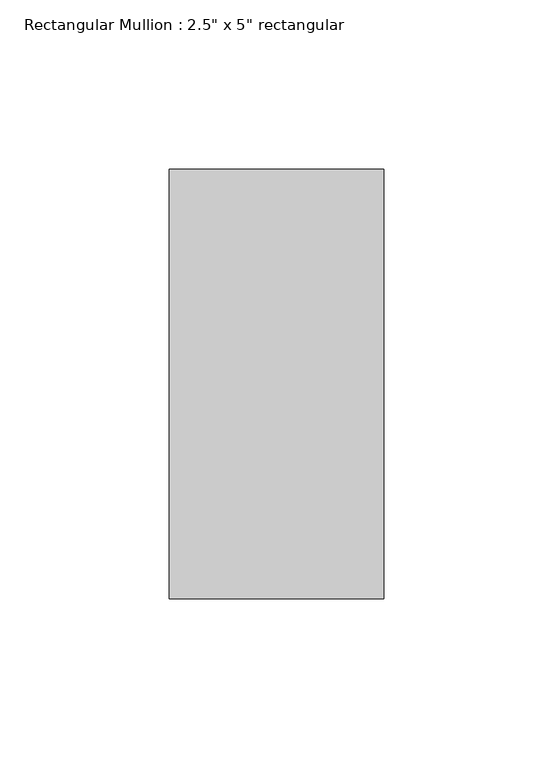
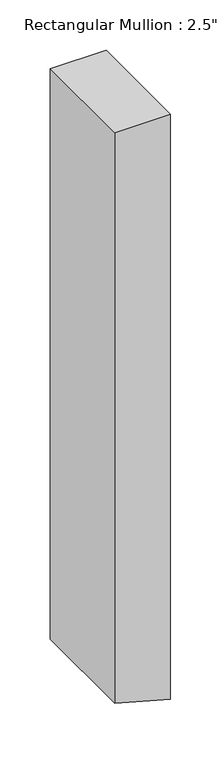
"""IFC4 building model written with IfcOpenShell, lengths in millimetres: member geometry."""

from ifc_helpers import new_model, si_unit, frame, origin, place, context, project, spatial, circle_curve, source, transform, mapped, element, save
from ifc_brep_helpers import plane_surface, cylinder_surface, advanced_brep


def member_720a8fcb(model_context):
    return source(origin(), model_context, "Body", "AdvancedBrep", [
        advanced_brep(
        [(31.75, 63.5, 0.0), (-31.75, 63.5, 0.0), (-31.75, -63.5, 0.0), (31.75, -63.5, 0.0), (31.75, 63.5, -707.0385107), (16.5451442, 63.5, -702.970122), (-31.75, 63.5, -689.5807919), (-31.75, -63.5, -689.5807919), (16.5451442, -63.5, -702.970122), (31.75, -63.5, -707.0385107)],
        [
            (0, 1),
            (1, 2),
            (2, 3),
            (3, 0),
            (0, 4),
            (4, 5, circle_curve(frame((969.8308928, 63.5, 2829.3140133), z_axis=(0.0, 1.0, 0.0), x_axis=(-0.0012441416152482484, 0.0, -0.9999992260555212)), 3658.6588985)),
            (5, 6, circle_curve(frame((969.8308928, 63.5, 2829.3140133), z_axis=(0.0, 1.0, 0.0), x_axis=(-0.2605560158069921, 0.0, -0.9654587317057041)), 3658.6588985)),
            (6, 1),
            (6, 7),
            (7, 2),
            (7, 8, circle_curve(frame((969.8308928, -63.5, 2829.3140133), z_axis=(0.0, -1.0, 0.0), x_axis=(-0.2605560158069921, 0.0, -0.9654587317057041)), 3658.6588985)),
            (8, 9, circle_curve(frame((969.8308928, -63.5, 2829.3140133), z_axis=(0.0, -1.0, 0.0), x_axis=(-0.0012441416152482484, 0.0, -0.9999992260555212)), 3658.6588985)),
            (9, 3),
            (9, 4),
            (8, 5),
        ],
        [
            plane_surface(frame((0.0, -70.9951583, 0.0), z_axis=(0.0, 0.0, 1.0), x_axis=(-1.0, 0.0, 0.0))),
            plane_surface(frame((31.75, 63.5, 0.0), z_axis=(0.0, 1.0, 0.0), x_axis=(0.0, 0.0, -1.0))),
            plane_surface(frame((-31.75, 63.5, 0.0), z_axis=(-1.0, 0.0, 0.0), x_axis=(0.0, 0.0, -1.0))),
            plane_surface(frame((-31.75, -63.5, 0.0), z_axis=(0.0, -1.0, 0.0), x_axis=(0.0, 0.0, -1.0))),
            plane_surface(frame((31.75, -63.5, 0.0), z_axis=(1.0, 0.0, 0.0), x_axis=(0.0, 0.0, -1.0))),
            cylinder_surface(frame((969.8308928, 0.0, 2829.3140133), z_axis=(0.0, 1.0000000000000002, 0.0), x_axis=(-0.0012441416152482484, 0.0, -0.9999992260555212)), 3658.6588985),
            cylinder_surface(frame((969.8308928, 0.0, 2829.3140133), z_axis=(0.0, 1.0, 0.0), x_axis=(-0.2605560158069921, 0.0, -0.9654587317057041)), 3658.6588985),
        ],
        [
            (0, [[1, 2, 3, 4]]),
            (1, [[-1, 5, 6, 7, 8]]),
            (2, [[-2, -8, 9, 10]]),
            (3, [[-3, -10, 11, 12, 13]]),
            (4, [[-4, -13, 14, -5]]),
            (5, [[-14, -12, 15, -6]]),
            (6, [[-11, -9, -7, -15]]),
        ],
    ),
    ])


if __name__ == "__main__":
    model = new_model("IFC4")
    model_context = context("Model", 3, world=origin())
    ifc_project = project(units=[si_unit("LENGTHUNIT", "METRE", prefix="MILLI")], contexts=[model_context])
    site = spatial("IfcSite", under=ifc_project)
    building = spatial("IfcBuilding", under=site)
    placement = place(None, origin())
    member_shape = member_720a8fcb(model_context)
    element("IfcMember", 1, ObjectType="Rectangular Mullion : 2.5\" x 5\" rectangular", at=placement, inside=building, context=model_context, shape_type="MappedRepresentation", body=[
        mapped(member_shape, transform((0.0, 0.0, 0.0), x_axis=(1.0, 0.0, 0.0), y_axis=(0.0, 1.0, 0.0), z_axis=(0.0, 0.0, 1.0))),
    ])
    save(model, "model.ifc")
